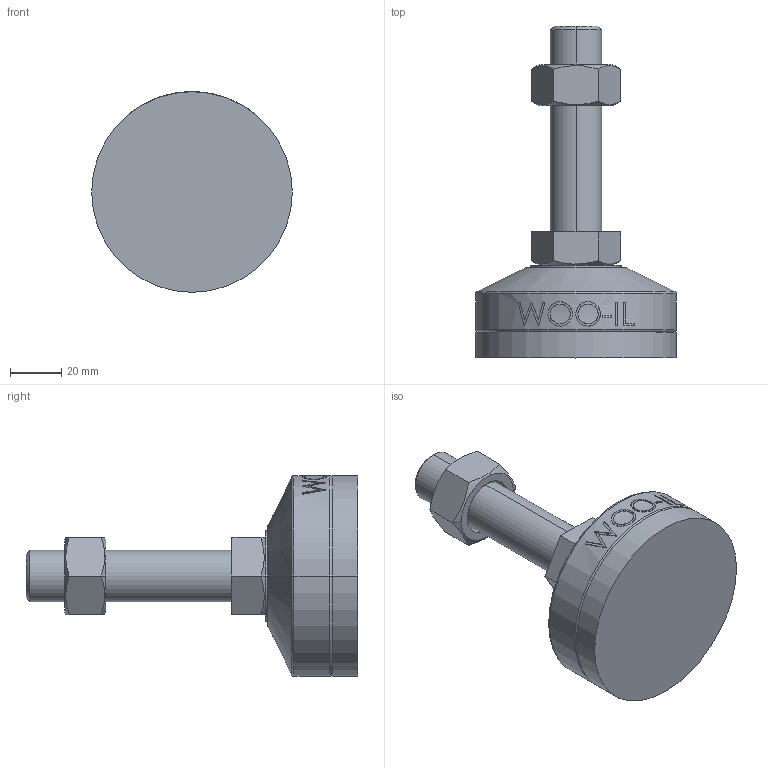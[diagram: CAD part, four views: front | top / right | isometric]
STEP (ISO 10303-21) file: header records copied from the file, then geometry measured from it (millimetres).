
FILE_DESCRIPTION (( 'STEP AP214' ), '1' );
FILE_NAME ('MFZR78-M20-80.step', '2021-03-29T06:59:04', ( '' ), ( '' ), 'SwSTEP 2.0', 'SolidWorks 2019', '' );
FILE_SCHEMA (( 'AUTOMOTIVE_DESIGN' ));
Length unit declared in the file: millimetre
Products named in the file (2): MFZR78-M20-80
Bounding box: 78 x 129 x 78 mm (x, y, z)
Volume: 191569.7 mm3; surface area: 27910.6 mm2
Topology: 3 solids, 3 shells, 102 faces, 235 edges, 150 vertices
Faces by surface type: plane 48, cylinder 18, bspline 16, cone 14, torus 6
Entity records: 4492 total; most frequent: CARTESIAN_POINT 2237, ORIENTED_EDGE 470, DIRECTION 415, EDGE_CURVE 235, AXIS2_PLACEMENT_3D 158, VERTEX_POINT 150, EDGE_LOOP 115, ADVANCED_FACE 102
